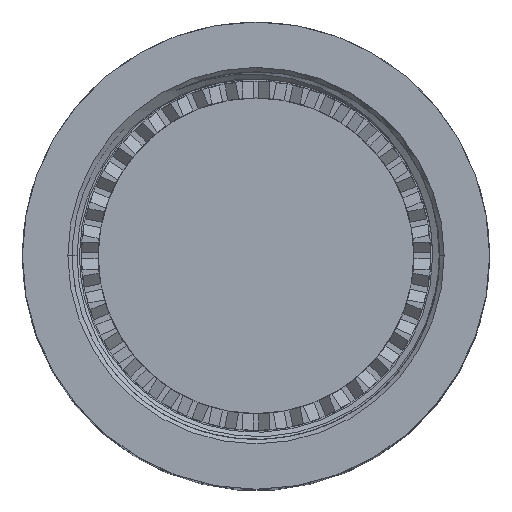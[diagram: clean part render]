
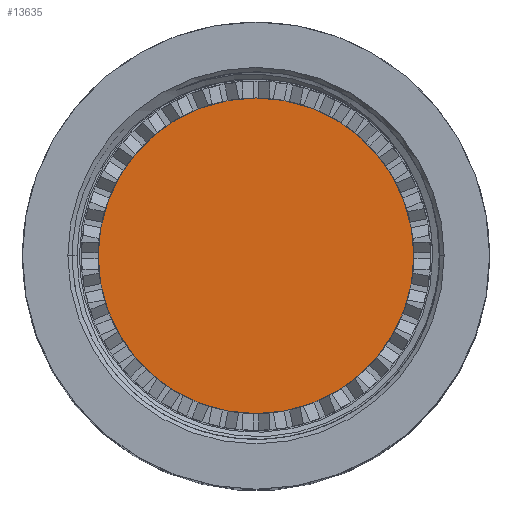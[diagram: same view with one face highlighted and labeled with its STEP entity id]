
A CAD part, top view. The second image highlights one B-rep face of the part: STEP entity #13635.
In plain terms, the highlighted planar face has unit normal (0, 0, 1).
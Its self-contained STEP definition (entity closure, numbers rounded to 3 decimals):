
#697 = CARTESIAN_POINT ( 'NONE',  ( 11.951, 0., -1.718 ) ) ;
#2361 = CIRCLE ( 'NONE', #4384, 11.951 ) ;
#3283 = AXIS2_PLACEMENT_3D ( 'NONE', #14369, #3333, #13224 ) ;
#3333 = DIRECTION ( 'NONE',  ( 0., 0., 1. ) ) ;
#4319 = CARTESIAN_POINT ( 'NONE',  ( 0., 0., -1.718 ) ) ;
#4384 = AXIS2_PLACEMENT_3D ( 'NONE', #4319, #10303, #8004 ) ;
#4738 = EDGE_CURVE ( 'NONE', #11575, #13425, #6846, .T. ) ;
#5372 = CARTESIAN_POINT ( 'NONE',  ( 0., 0., -1.718 ) ) ;
#5530 = FACE_OUTER_BOUND ( 'NONE', #8183, .T. ) ;
#5660 = AXIS2_PLACEMENT_3D ( 'NONE', #5372, #10233, #7847 ) ;
#6846 = CIRCLE ( 'NONE', #3283, 11.951 ) ;
#7498 = EDGE_CURVE ( 'NONE', #13425, #11575, #2361, .T. ) ;
#7686 = PLANE ( 'NONE',  #5660 ) ;
#7727 = ORIENTED_EDGE ( 'NONE', *, *, #7498, .T. ) ;
#7847 = DIRECTION ( 'NONE',  ( -1., 0., 0. ) ) ;
#8004 = DIRECTION ( 'NONE',  ( -1., 0., 0. ) ) ;
#8183 = EDGE_LOOP ( 'NONE', ( #15122, #7727 ) ) ;
#9469 = CARTESIAN_POINT ( 'NONE',  ( -11.951, 0., -1.718 ) ) ;
#10233 = DIRECTION ( 'NONE',  ( 0., 0., -1. ) ) ;
#10303 = DIRECTION ( 'NONE',  ( 0., 0., 1. ) ) ;
#11575 = VERTEX_POINT ( 'NONE', #697 ) ;
#13224 = DIRECTION ( 'NONE',  ( -1., 0., 0. ) ) ;
#13425 = VERTEX_POINT ( 'NONE', #9469 ) ;
#13635 = ADVANCED_FACE ( 'NONE', ( #5530 ), #7686, .F. ) ;
#14369 = CARTESIAN_POINT ( 'NONE',  ( 0., 0., -1.718 ) ) ;
#15122 = ORIENTED_EDGE ( 'NONE', *, *, #4738, .T. ) ;
